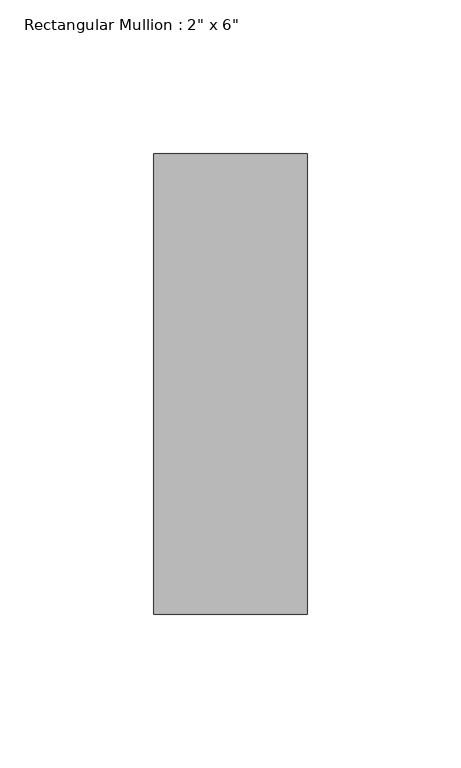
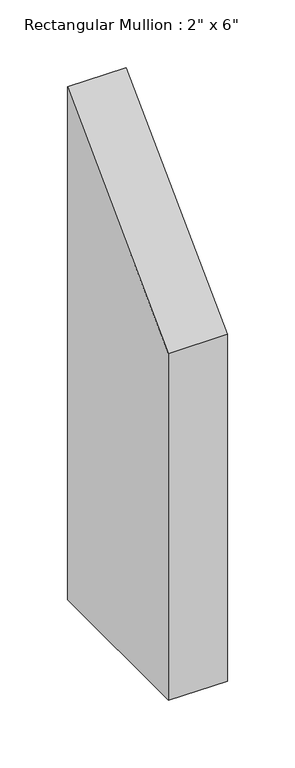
"""IFC4 building model written with IfcOpenShell, lengths in millimetres: member geometry."""

from ifc_helpers import new_model, si_unit, frame, origin, place, context, project, spatial, polyline, outline, extrude, source, transform, mapped, element, save


def member_7401c0e8(model_context):
    return source(origin(), model_context, "Body", "SweptSolid", [
        extrude(outline(polyline([(-150.0, -150.0), (0.0, 0.0), (0.0, -462.9999995), (-150.0, -462.9999995), (-150.0, -150.0)])), frame((-50.0, 0.0, 0.0), z_axis=(1.0, 0.0, 0.0), x_axis=(0.0, 1.0, 0.0)), (0.0, 0.0, 1.0), 50.0),
    ])


if __name__ == "__main__":
    model = new_model("IFC4")
    model_context = context("Model", 3, world=origin())
    ifc_project = project(units=[si_unit("LENGTHUNIT", "METRE", prefix="MILLI")], contexts=[model_context])
    site = spatial("IfcSite", under=ifc_project)
    building = spatial("IfcBuilding", under=site)
    placement = place(None, origin())
    member_shape = member_7401c0e8(model_context)
    element("IfcMember", 1, ObjectType="Rectangular Mullion : 2\" x 6\"", at=placement, inside=building, context=model_context, shape_type="MappedRepresentation", body=[
        mapped(member_shape, transform((0.0, 0.0, 0.0), x_axis=(1.0, 0.0, 0.0), y_axis=(0.0, 1.0, 0.0), z_axis=(0.0, 0.0, 1.0))),
    ])
    save(model, "model.ifc")
